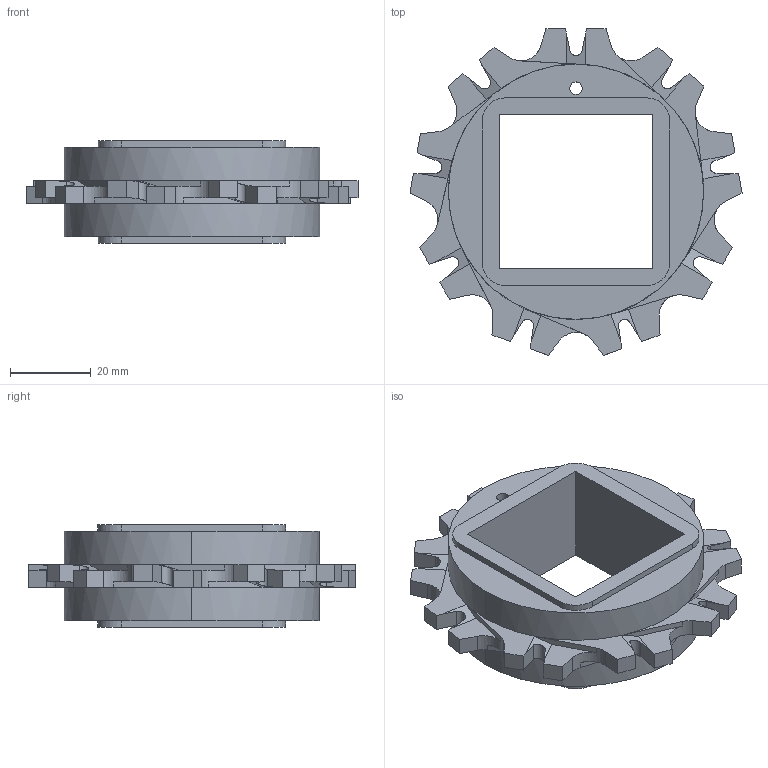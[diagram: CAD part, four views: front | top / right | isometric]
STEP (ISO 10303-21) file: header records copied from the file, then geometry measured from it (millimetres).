
FILE_DESCRIPTION((''),'2;1');
FILE_NAME('S900_SPROCKET_31X15_40_SQ','2008-12-12T',('jmumphre'),(''),'PRO/ENGINEER BY PARAMETRIC TECHNOLOGY CORPORATION, 2008150','PRO/ENGINEER BY PARAMETRIC TECHNOLOGY CORPORATION, 2008150','');
FILE_SCHEMA(('CONFIG_CONTROL_DESIGN'));
Length unit declared in the file: inch
Products named in the file (1): S900_SPROCKET_31X15_40_SQ
Bounding box: 82.27 x 81.02 x 25.4 mm (x, y, z)
Volume: 45698.1 mm3; surface area: 16033.8 mm2
Topology: 1 solids, 1 shells, 174 faces, 510 edges, 340 vertices
Faces by surface type: plane 142, cylinder 32
Entity records: 6276 total; most frequent: CARTESIAN_POINT 1588, ORIENTED_EDGE 1020, DIRECTION 904, EDGE_CURVE 510, VECTOR 392, LINE 392, VERTEX_POINT 340, AXIS2_PLACEMENT_3D 256
